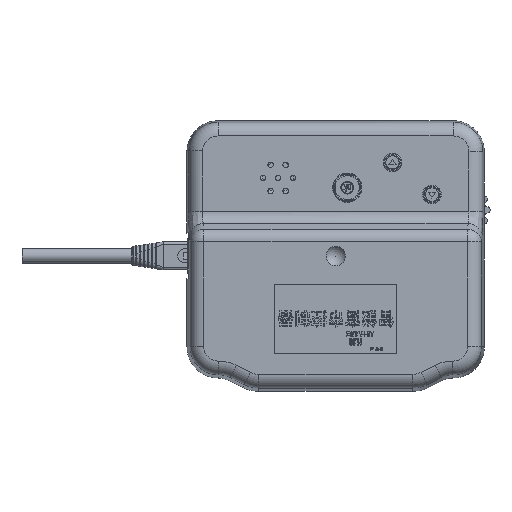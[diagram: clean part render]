
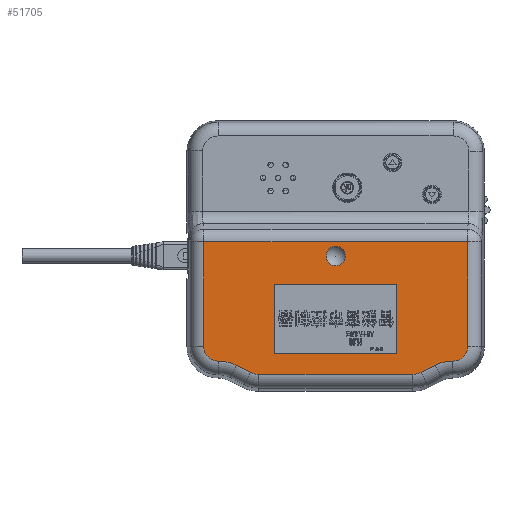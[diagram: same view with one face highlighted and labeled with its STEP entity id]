
A CAD part, top view. The second image highlights one B-rep face of the part: STEP entity #51705.
In plain terms, the highlighted planar face has unit normal (0, 0, 1).
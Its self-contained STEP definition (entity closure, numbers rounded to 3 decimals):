
#4608=PLANE('',#62073);
#9328=LINE('',#119865,#14189);
#9330=LINE('',#119873,#14191);
#9372=LINE('',#120110,#14233);
#9374=LINE('',#120122,#14235);
#9376=LINE('',#120134,#14237);
#9464=LINE('',#120681,#14325);
#9465=LINE('',#120686,#14326);
#9466=LINE('',#120690,#14327);
#9467=LINE('',#120694,#14328);
#9468=LINE('',#120698,#14329);
#14189=VECTOR('',#73490,1000.);
#14191=VECTOR('',#73498,1000.);
#14233=VECTOR('',#73698,1000.);
#14235=VECTOR('',#73712,1000.);
#14237=VECTOR('',#73726,1000.);
#14325=VECTOR('',#74158,1000.);
#14326=VECTOR('',#74163,1000.);
#14327=VECTOR('',#74166,1000.);
#14328=VECTOR('',#74169,1000.);
#14329=VECTOR('',#74172,1000.);
#28690=ORIENTED_EDGE('',*,*,#36089,.F.);
#28691=ORIENTED_EDGE('',*,*,#36090,.F.);
#28692=ORIENTED_EDGE('',*,*,#36091,.F.);
#28693=ORIENTED_EDGE('',*,*,#36092,.F.);
#28694=ORIENTED_EDGE('',*,*,#36093,.F.);
#28695=ORIENTED_EDGE('',*,*,#36094,.F.);
#28696=ORIENTED_EDGE('',*,*,#36095,.F.);
#28697=ORIENTED_EDGE('',*,*,#36096,.F.);
#28698=ORIENTED_EDGE('',*,*,#36097,.F.);
#28699=ORIENTED_EDGE('',*,*,#35798,.T.);
#28700=ORIENTED_EDGE('',*,*,#36088,.T.);
#28701=ORIENTED_EDGE('',*,*,#35794,.T.);
#28702=ORIENTED_EDGE('',*,*,#35891,.T.);
#28703=ORIENTED_EDGE('',*,*,#35894,.T.);
#28704=ORIENTED_EDGE('',*,*,#35897,.T.);
#28705=ORIENTED_EDGE('',*,*,#35900,.T.);
#28706=ORIENTED_EDGE('',*,*,#35903,.T.);
#28707=ORIENTED_EDGE('',*,*,#35906,.T.);
#28708=ORIENTED_EDGE('',*,*,#35909,.T.);
#28709=ORIENTED_EDGE('',*,*,#35912,.T.);
#28710=ORIENTED_EDGE('',*,*,#35914,.T.);
#35794=EDGE_CURVE('',#40788,#40786,#9328,.T.);
#35798=EDGE_CURVE('',#40791,#40790,#9330,.T.);
#35891=EDGE_CURVE('',#40786,#40857,#41982,.T.);
#35894=EDGE_CURVE('',#40857,#40859,#41985,.T.);
#35897=EDGE_CURVE('',#40859,#40861,#9372,.T.);
#35900=EDGE_CURVE('',#40861,#40863,#41989,.T.);
#35903=EDGE_CURVE('',#40863,#40865,#9374,.T.);
#35906=EDGE_CURVE('',#40865,#40867,#41993,.T.);
#35909=EDGE_CURVE('',#40867,#40869,#9376,.T.);
#35912=EDGE_CURVE('',#40869,#40871,#41996,.T.);
#35914=EDGE_CURVE('',#40871,#40791,#41998,.T.);
#36088=EDGE_CURVE('',#40790,#40788,#9464,.F.);
#36089=EDGE_CURVE('',#40942,#40943,#42047,.T.);
#36090=EDGE_CURVE('',#40944,#40942,#9465,.T.);
#36091=EDGE_CURVE('',#40945,#40944,#42048,.T.);
#36092=EDGE_CURVE('',#40946,#40945,#9466,.T.);
#36093=EDGE_CURVE('',#40947,#40946,#42049,.T.);
#36094=EDGE_CURVE('',#40948,#40947,#9467,.T.);
#36095=EDGE_CURVE('',#40949,#40948,#42050,.T.);
#36096=EDGE_CURVE('',#40943,#40949,#9468,.T.);
#36097=EDGE_CURVE('',#40950,#40950,#42051,.T.);
#40786=VERTEX_POINT('',#119863);
#40788=VERTEX_POINT('',#119866);
#40790=VERTEX_POINT('',#119872);
#40791=VERTEX_POINT('',#119874);
#40857=VERTEX_POINT('',#120097);
#40859=VERTEX_POINT('',#120103);
#40861=VERTEX_POINT('',#120109);
#40863=VERTEX_POINT('',#120115);
#40865=VERTEX_POINT('',#120121);
#40867=VERTEX_POINT('',#120127);
#40869=VERTEX_POINT('',#120133);
#40871=VERTEX_POINT('',#120143);
#40942=VERTEX_POINT('',#120684);
#40943=VERTEX_POINT('',#120685);
#40944=VERTEX_POINT('',#120687);
#40945=VERTEX_POINT('',#120689);
#40946=VERTEX_POINT('',#120691);
#40947=VERTEX_POINT('',#120693);
#40948=VERTEX_POINT('',#120695);
#40949=VERTEX_POINT('',#120697);
#40950=VERTEX_POINT('',#120700);
#41982=CIRCLE('',#61881,3.163);
#41985=CIRCLE('',#61885,8.479);
#41989=CIRCLE('',#61891,4.133);
#41993=CIRCLE('',#61897,4.133);
#41996=CIRCLE('',#61902,8.479);
#41998=CIRCLE('',#61905,3.163);
#42047=CIRCLE('',#62074,0.141);
#42048=CIRCLE('',#62075,0.141);
#42049=CIRCLE('',#62076,0.141);
#42050=CIRCLE('',#62077,0.141);
#42051=CIRCLE('',#62078,2.103);
#45195=EDGE_LOOP('',(#28690,#28691,#28692,#28693,#28694,#28695,#28696,#28697));
#45196=EDGE_LOOP('',(#28698));
#45197=EDGE_LOOP('',(#28699,#28700,#28701,#28702,#28703,#28704,#28705,#28706,
#28707,#28708,#28709,#28710));
#48370=FACE_BOUND('',#45195,.T.);
#48371=FACE_BOUND('',#45196,.T.);
#48372=FACE_BOUND('',#45197,.T.);
#51705=ADVANCED_FACE('',(#48370,#48371,#48372),#4608,.T.);
#61881=AXIS2_PLACEMENT_3D('',#120098,#73682,#73683);
#61885=AXIS2_PLACEMENT_3D('',#120104,#73690,#73691);
#61891=AXIS2_PLACEMENT_3D('',#120116,#73704,#73705);
#61897=AXIS2_PLACEMENT_3D('',#120128,#73718,#73719);
#61902=AXIS2_PLACEMENT_3D('',#120144,#73730,#73731);
#61905=AXIS2_PLACEMENT_3D('',#120147,#73736,#73737);
#62073=AXIS2_PLACEMENT_3D('',#120682,#74159,#74160);
#62074=AXIS2_PLACEMENT_3D('',#120683,#74161,#74162);
#62075=AXIS2_PLACEMENT_3D('',#120688,#74164,#74165);
#62076=AXIS2_PLACEMENT_3D('',#120692,#74167,#74168);
#62077=AXIS2_PLACEMENT_3D('',#120696,#74170,#74171);
#62078=AXIS2_PLACEMENT_3D('',#120699,#74173,#74174);
#73490=DIRECTION('',(0.,-1.,0.));
#73498=DIRECTION('',(0.,1.,0.));
#73682=DIRECTION('',(0.,0.,1.));
#73683=DIRECTION('',(1.,0.,0.));
#73690=DIRECTION('',(0.,0.,-1.));
#73691=DIRECTION('',(1.,0.,0.));
#73698=DIRECTION('',(0.893,-0.451,0.));
#73704=DIRECTION('',(0.,0.,1.));
#73705=DIRECTION('',(1.,0.,0.));
#73712=DIRECTION('',(1.,0.,0.));
#73718=DIRECTION('',(0.,0.,1.));
#73719=DIRECTION('',(1.,0.,0.));
#73726=DIRECTION('',(0.893,0.451,0.));
#73730=DIRECTION('',(0.,0.,-1.));
#73731=DIRECTION('',(1.,0.,0.));
#73736=DIRECTION('',(0.,0.,1.));
#73737=DIRECTION('',(1.,0.,0.));
#74158=DIRECTION('',(1.,0.,0.));
#74159=DIRECTION('',(0.,0.,1.));
#74160=DIRECTION('',(-1.,0.,0.));
#74161=DIRECTION('',(0.,0.,1.));
#74162=DIRECTION('',(1.,0.,0.));
#74163=DIRECTION('',(-1.,0.,0.));
#74164=DIRECTION('',(0.,0.,1.));
#74165=DIRECTION('',(1.,0.,0.));
#74166=DIRECTION('',(0.,1.,0.));
#74167=DIRECTION('',(0.,0.,1.));
#74168=DIRECTION('',(1.,0.,0.));
#74169=DIRECTION('',(1.,0.,0.));
#74170=DIRECTION('',(0.,0.,1.));
#74171=DIRECTION('',(1.,0.,0.));
#74172=DIRECTION('',(0.,-1.,0.));
#74173=DIRECTION('',(0.,0.,1.));
#74174=DIRECTION('',(1.,0.,0.));
#119863=CARTESIAN_POINT('',(-28.884,-22.304,30.33));
#119865=CARTESIAN_POINT('',(-28.884,10.254,30.33));
#119866=CARTESIAN_POINT('',(-28.884,0.679,30.33));
#119872=CARTESIAN_POINT('',(28.86,0.679,30.33));
#119873=CARTESIAN_POINT('',(28.86,20.352,30.33));
#119874=CARTESIAN_POINT('',(28.86,-22.304,30.33));
#120097=CARTESIAN_POINT('',(-25.672,-25.467,30.33));
#120098=CARTESIAN_POINT('',(-25.721,-22.304,30.33));
#120103=CARTESIAN_POINT('',(-21.803,-26.378,30.33));
#120104=CARTESIAN_POINT('',(-25.626,-33.946,30.33));
#120109=CARTESIAN_POINT('',(-18.724,-27.933,30.33));
#120110=CARTESIAN_POINT('',(-18.724,-27.933,30.33));
#120115=CARTESIAN_POINT('',(-16.861,-28.378,30.33));
#120116=CARTESIAN_POINT('',(-16.861,-24.245,30.33));
#120121=CARTESIAN_POINT('',(16.836,-28.378,30.33));
#120122=CARTESIAN_POINT('',(16.836,-28.378,30.33));
#120127=CARTESIAN_POINT('',(18.7,-27.933,30.33));
#120128=CARTESIAN_POINT('',(16.836,-24.245,30.33));
#120133=CARTESIAN_POINT('',(21.779,-26.378,30.33));
#120134=CARTESIAN_POINT('',(21.779,-26.378,30.33));
#120143=CARTESIAN_POINT('',(25.602,-25.466,30.33));
#120144=CARTESIAN_POINT('',(25.602,-33.946,30.33));
#120147=CARTESIAN_POINT('',(25.697,-22.304,30.33));
#120681=CARTESIAN_POINT('',(-0.012,0.679,30.33));
#120682=CARTESIAN_POINT('',(-0.012,-7.602,30.33));
#120683=CARTESIAN_POINT('',(-13.263,-8.891,30.33));
#120684=CARTESIAN_POINT('',(-13.263,-8.75,30.33));
#120685=CARTESIAN_POINT('',(-13.404,-8.891,30.33));
#120686=CARTESIAN_POINT('',(-0.012,-8.75,30.33));
#120687=CARTESIAN_POINT('',(13.263,-8.75,30.33));
#120688=CARTESIAN_POINT('',(13.263,-8.891,30.33));
#120689=CARTESIAN_POINT('',(13.404,-8.891,30.33));
#120690=CARTESIAN_POINT('',(13.404,-7.602,30.33));
#120691=CARTESIAN_POINT('',(13.404,-23.609,30.33));
#120692=CARTESIAN_POINT('',(13.263,-23.609,30.33));
#120693=CARTESIAN_POINT('',(13.263,-23.75,30.33));
#120694=CARTESIAN_POINT('',(-0.012,-23.75,30.33));
#120695=CARTESIAN_POINT('',(-13.263,-23.75,30.33));
#120696=CARTESIAN_POINT('',(-13.263,-23.609,30.33));
#120697=CARTESIAN_POINT('',(-13.404,-23.609,30.33));
#120698=CARTESIAN_POINT('',(-13.404,-7.602,30.33));
#120699=CARTESIAN_POINT('',(0.004,-2.461,30.33));
#120700=CARTESIAN_POINT('',(2.107,-2.461,30.33));
